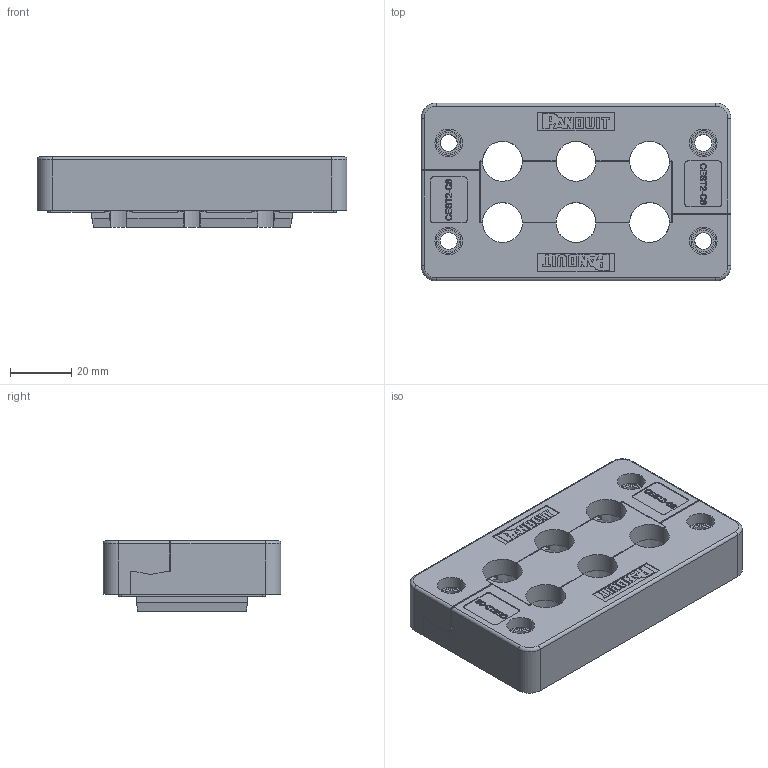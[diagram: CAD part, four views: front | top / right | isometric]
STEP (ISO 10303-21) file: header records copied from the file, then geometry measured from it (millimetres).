
FILE_DESCRIPTION(/* description */ (''),/* implementation_level */ '2;1');
FILE_NAME(/* name */ 'H:\SapWorkDir\Inventor\MP1\ConvertTempPath\87_11_121466_00_A_220620_KDL-D 10-6 ZSB.stp',/* time_stamp */ '2022-06-20T11:32:59+02:00',/* author */ ('BAUER'),/* organization */ (''),/* preprocessor_version */ 'ST-DEVELOPER v16.13',/* originating_system */ 'Autodesk Inventor 2018',/* authorisation */ '');
FILE_SCHEMA (('AUTOMOTIVE_DESIGN { 1 0 10303 214 3 1 1 }'));
Length unit declared in the file: millimetre
Products named in the file (4): 121466; 16-polig_Tüllenblock; 121415; KDL-D 16_Mittelteil
Assembly tree (4 placements, depth 2):
  121466
    16-polig_Tüllenblock
    121415  x2
    KDL-D 16_Mittelteil
Bounding box: 101 x 58 x 23 mm (x, y, z)
Volume: 79350.4 mm3; surface area: 45129.9 mm2
Topology: 4 solids, 6 shells, 1179 faces, 3197 edges, 2122 vertices
Faces by surface type: plane 741, cylinder 224, bspline 194, torus 12, cone 8
Full cylindrical faces by diameter (mm): 4.061 x1, 5 x6, 5.5 x10, 6 x2, 7 x4, 8 x4, 9 x4
Entity records: 27319 total; most frequent: CARTESIAN_POINT 6585, ORIENTED_EDGE 4508, DIRECTION 3839, EDGE_CURVE 2254, LINE 1565, VECTOR 1565, VERTEX_POINT 1505, AXIS2_PLACEMENT_3D 1137
